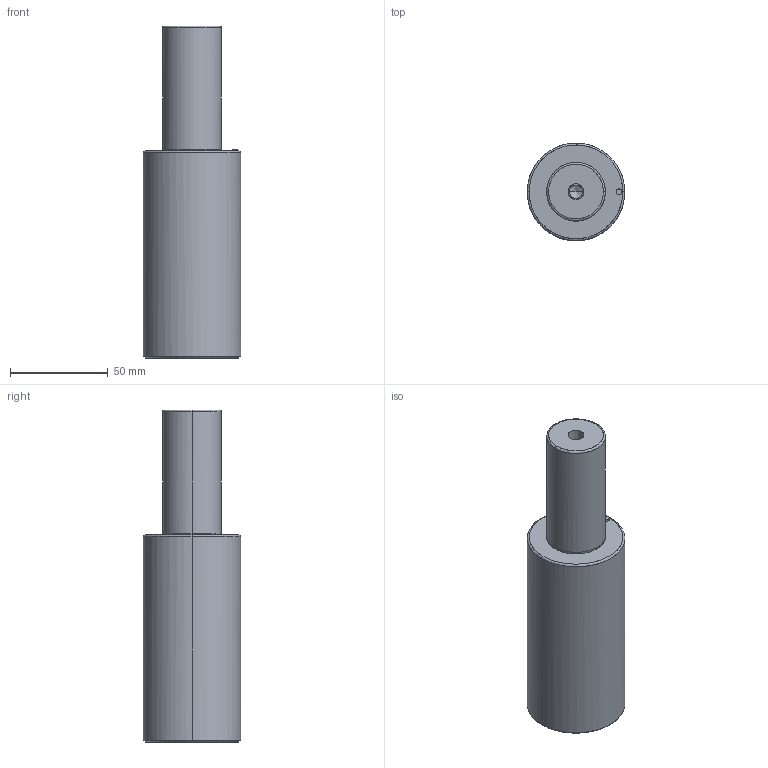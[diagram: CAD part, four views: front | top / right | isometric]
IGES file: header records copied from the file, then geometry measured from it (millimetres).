
Global section: file name: E:\UnigraphicsGraphicData\MISUMI_PRESS-PARTS\IGES\3d_gsc50-63_03837_r00.igs; native system: NX V5.0; preprocessor: UGS NX IGES V5.0; author: MISUMI; date: 20110105.160750; units: millimetre
Bounding box: 50 x 49.98 x 170 mm (x, y, z)
Surface area: 27302.3 mm2 (no closed solid volume)
Topology: 0 solids, 0 shells, 32 faces, 232 edges, 228 vertices
Faces by surface type: bspline 32
